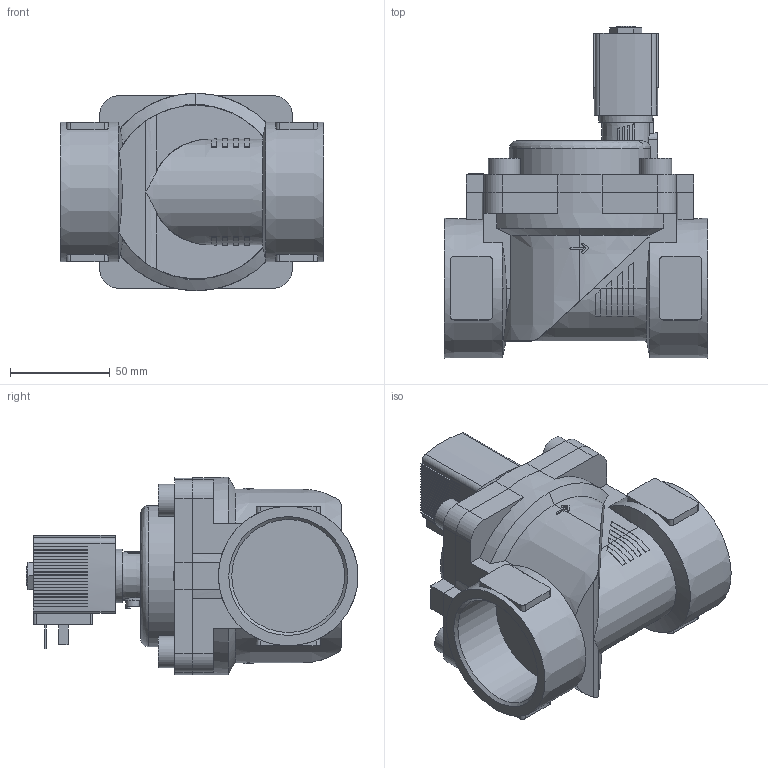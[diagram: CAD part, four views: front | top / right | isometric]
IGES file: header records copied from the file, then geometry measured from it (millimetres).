
Start section: Data from Parasolid IGES Translator 26.0.171, Copyright(c) 2006 Siemens PLM Software. All Rights Reserved.
Global section: file name: 6281-277942-2_2-Way_Solenoid_Valve__Servo-assisted__General_Purpose.igs; native system: By Siemens PLM Incorporated; preprocessor: XPlus GENERIC/IGES 26.0.171; author: Noname; organization: Noname; date: 20240702.114136; units: millimetre
Bounding box: 132 x 166.5 x 99 mm (x, y, z)
Surface area: 103613.5 mm2 (no closed solid volume)
Topology: 0 solids, 0 shells, 580 faces, 3276 edges, 3270 vertices
Faces by surface type: extrusion 450, revolution 130
